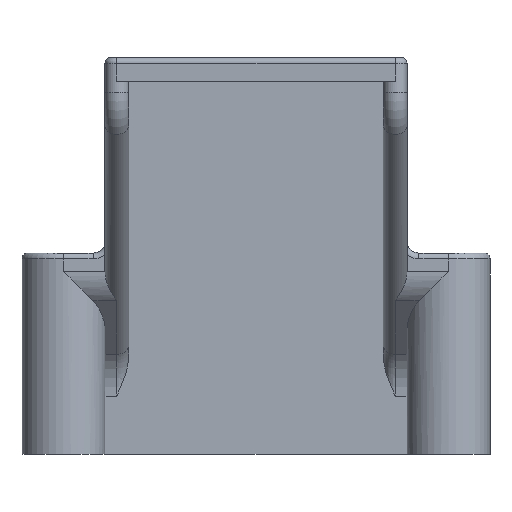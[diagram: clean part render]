
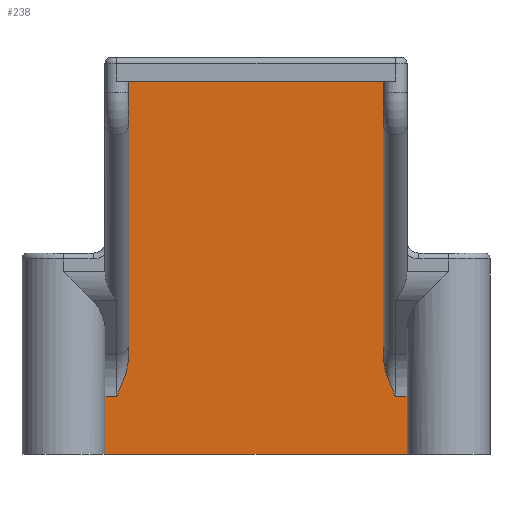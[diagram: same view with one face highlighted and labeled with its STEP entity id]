
A CAD part, left-side view. The second image highlights one B-rep face of the part: STEP entity #238.
In plain terms, the highlighted planar face has unit normal (-1, 0, 0).
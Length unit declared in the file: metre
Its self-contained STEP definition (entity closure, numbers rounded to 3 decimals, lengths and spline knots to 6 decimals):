
#238 = ADVANCED_FACE( '', ( #516 ), #517, .F. );
#516 = FACE_OUTER_BOUND( '', #1462, .T. );
#517 = PLANE( '', #1463 );
#1462 = EDGE_LOOP( '', ( #2085, #2086, #2087, #2088, #2089, #2090, #2091, #2092, #2093, #2094 ) );
#1463 = AXIS2_PLACEMENT_3D( '', #2095, #2096, #2097 );
#2085 = ORIENTED_EDGE( '', *, *, #2437, .F. );
#2086 = ORIENTED_EDGE( '', *, *, #2404, .T. );
#2087 = ORIENTED_EDGE( '', *, *, #2543, .T. );
#2088 = ORIENTED_EDGE( '', *, *, #2284, .F. );
#2089 = ORIENTED_EDGE( '', *, *, #2348, .F. );
#2090 = ORIENTED_EDGE( '', *, *, #2544, .T. );
#2091 = ORIENTED_EDGE( '', *, *, #2469, .T. );
#2092 = ORIENTED_EDGE( '', *, *, #2407, .T. );
#2093 = ORIENTED_EDGE( '', *, *, #2502, .F. );
#2094 = ORIENTED_EDGE( '', *, *, #2520, .F. );
#2095 = CARTESIAN_POINT( '', ( -0.02, -0.079, 0.010033 ) );
#2096 = DIRECTION( '', ( 1., 0., 0. ) );
#2097 = DIRECTION( '', ( 0., 0., -1. ) );
#2284 = EDGE_CURVE( '', #2584, #2586, #2587, .T. );
#2348 = EDGE_CURVE( '', #2694, #2584, #2696, .T. );
#2404 = EDGE_CURVE( '', #2784, #2782, #2785, .T. );
#2407 = EDGE_CURVE( '', #2788, #2789, #2790, .T. );
#2437 = EDGE_CURVE( '', #2784, #2832, #2835, .T. );
#2469 = EDGE_CURVE( '', #2882, #2788, #2883, .T. );
#2502 = EDGE_CURVE( '', #2925, #2789, #2927, .T. );
#2520 = EDGE_CURVE( '', #2832, #2925, #2950, .T. );
#2543 = EDGE_CURVE( '', #2782, #2586, #2976, .F. );
#2544 = EDGE_CURVE( '', #2694, #2882, #2977, .T. );
#2584 = VERTEX_POINT( '', #3020 );
#2586 = VERTEX_POINT( '', #3023 );
#2587 = LINE( '', #3024, #3025 );
#2694 = VERTEX_POINT( '', #3169 );
#2696 = LINE( '', #3172, #3173 );
#2782 = VERTEX_POINT( '', #3378 );
#2784 = VERTEX_POINT( '', #3380 );
#2785 = LINE( '', #3381, #3382 );
#2788 = VERTEX_POINT( '', #3385 );
#2789 = VERTEX_POINT( '', #3386 );
#2790 = LINE( '', #3387, #3388 );
#2832 = VERTEX_POINT( '', #3488 );
#2835 = LINE( '', #3493, #3494 );
#2882 = VERTEX_POINT( '', #3638 );
#2883 = B_SPLINE_CURVE_WITH_KNOTS( '', 3, ( #3639, #3640, #3641, #3642, #3643, #3644, #3645, #3646, #3647, #3648, #3649, #3650 ), .UNSPECIFIED., .F., .F., ( 4, 2, 2, 2, 2, 4 ), ( 0., 0.001736, 0.003473, 0.005209, 0.006078, 0.006946 ), .UNSPECIFIED. );
#2925 = VERTEX_POINT( '', #3714 );
#2927 = B_SPLINE_CURVE_WITH_KNOTS( '', 1, ( #3717, #3718 ), .UNSPECIFIED., .F., .F., ( 2, 2 ), ( 0., 0.704133 ), .UNSPECIFIED. );
#2950 = LINE( '', #3785, #3786 );
#2976 = B_SPLINE_CURVE_WITH_KNOTS( '', 3, ( #3856, #3857, #3858, #3859, #3860, #3861, #3862, #3863, #3864, #3865, #3866, #3867 ), .UNSPECIFIED., .F., .F., ( 4, 2, 2, 2, 2, 4 ), ( 0., 0.001736, 0.003473, 0.005209, 0.006078, 0.006946 ), .UNSPECIFIED. );
#2977 = LINE( '', #3868, #3869 );
#3020 = CARTESIAN_POINT( '', ( -0.02, -0.061, 0.049 ) );
#3023 = CARTESIAN_POINT( '', ( -0.02, -0.061, 0.002491 ) );
#3024 = CARTESIAN_POINT( '', ( -0.02, -0.061, 0.049 ) );
#3025 = VECTOR( '', #3917, 1. );
#3169 = CARTESIAN_POINT( '', ( -0.02, -0.018, 0.049 ) );
#3172 = CARTESIAN_POINT( '', ( -0.02, -0.034, 0.049 ) );
#3173 = VECTOR( '', #4020, 1. );
#3378 = CARTESIAN_POINT( '', ( -0.02, -0.063, -0.004142 ) );
#3380 = CARTESIAN_POINT( '', ( -0.02, -0.065, -0.004142 ) );
#3381 = CARTESIAN_POINT( '', ( -0.02, -0.079, -0.004142 ) );
#3382 = VECTOR( '', #4119, 1. );
#3385 = CARTESIAN_POINT( '', ( -0.02, -0.016, -0.004142 ) );
#3386 = CARTESIAN_POINT( '', ( -0.02, -0.014, -0.004142 ) );
#3387 = CARTESIAN_POINT( '', ( -0.02, -0.079, -0.004142 ) );
#3388 = VECTOR( '', #4123, 1. );
#3488 = CARTESIAN_POINT( '', ( -0.02, -0.065, -0.014 ) );
#3493 = CARTESIAN_POINT( '', ( -0.02, -0.065, 500. ) );
#3494 = VECTOR( '', #4163, 1. );
#3638 = CARTESIAN_POINT( '', ( -0.02, -0.018, 0.002491 ) );
#3639 = CARTESIAN_POINT( '', ( -0.02, -0.018, 0.002491 ) );
#3640 = CARTESIAN_POINT( '', ( -0.02, -0.018, 0.001904 ) );
#3641 = CARTESIAN_POINT( '', ( -0.02, -0.017924, 0.001329 ) );
#3642 = CARTESIAN_POINT( '', ( -0.02, -0.017686, 0.000196 ) );
#3643 = CARTESIAN_POINT( '', ( -0.02, -0.017521, -0.000365 ) );
#3644 = CARTESIAN_POINT( '', ( -0.02, -0.017142, -0.001467 ) );
#3645 = CARTESIAN_POINT( '', ( -0.02, -0.016927, -0.002007 ) );
#3646 = CARTESIAN_POINT( '', ( -0.02, -0.016588, -0.002811 ) );
#3647 = CARTESIAN_POINT( '', ( -0.02, -0.016472, -0.003078 ) );
#3648 = CARTESIAN_POINT( '', ( -0.02, -0.016238, -0.003611 ) );
#3649 = CARTESIAN_POINT( '', ( -0.02, -0.016118, -0.003878 ) );
#3650 = CARTESIAN_POINT( '', ( -0.02, -0.016, -0.004142 ) );
#3714 = CARTESIAN_POINT( '', ( -0.02, -0.014, -0.014 ) );
#3717 = CARTESIAN_POINT( '', ( -0.02, -0.014, -0.014 ) );
#3718 = CARTESIAN_POINT( '', ( -0.02, -0.014, -0.004142 ) );
#3785 = CARTESIAN_POINT( '', ( -0.02, -0.079, -0.014 ) );
#3786 = VECTOR( '', #4261, 1. );
#3856 = CARTESIAN_POINT( '', ( -0.02, -0.061, 0.002491 ) );
#3857 = CARTESIAN_POINT( '', ( -0.02, -0.061, 0.001904 ) );
#3858 = CARTESIAN_POINT( '', ( -0.02, -0.061076, 0.001329 ) );
#3859 = CARTESIAN_POINT( '', ( -0.02, -0.061314, 0.000196 ) );
#3860 = CARTESIAN_POINT( '', ( -0.02, -0.061479, -0.000365 ) );
#3861 = CARTESIAN_POINT( '', ( -0.02, -0.061858, -0.001467 ) );
#3862 = CARTESIAN_POINT( '', ( -0.02, -0.062073, -0.002007 ) );
#3863 = CARTESIAN_POINT( '', ( -0.02, -0.062412, -0.002811 ) );
#3864 = CARTESIAN_POINT( '', ( -0.02, -0.062528, -0.003078 ) );
#3865 = CARTESIAN_POINT( '', ( -0.02, -0.062762, -0.003611 ) );
#3866 = CARTESIAN_POINT( '', ( -0.02, -0.062882, -0.003878 ) );
#3867 = CARTESIAN_POINT( '', ( -0.02, -0.063, -0.004142 ) );
#3868 = CARTESIAN_POINT( '', ( -0.02, -0.018, 0.049 ) );
#3869 = VECTOR( '', #4285, 1. );
#3917 = DIRECTION( '', ( 0., 0., -1. ) );
#4020 = DIRECTION( '', ( 0., -1., 0. ) );
#4119 = DIRECTION( '', ( 0., 1., 0. ) );
#4123 = DIRECTION( '', ( 0., 1., 0. ) );
#4163 = DIRECTION( '', ( 0., 0., -1. ) );
#4261 = DIRECTION( '', ( 0., 1., 0. ) );
#4285 = DIRECTION( '', ( 0., 0., -1. ) );
